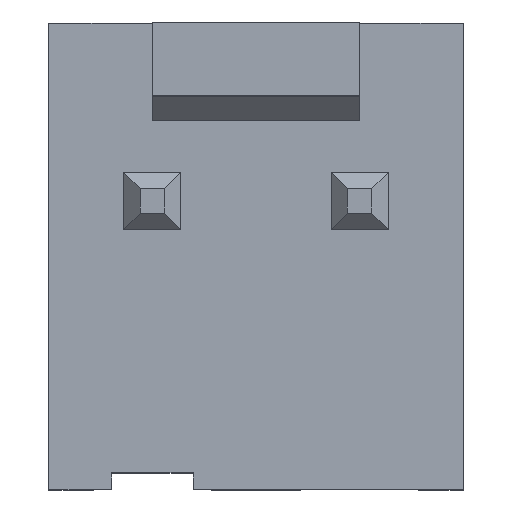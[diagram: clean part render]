
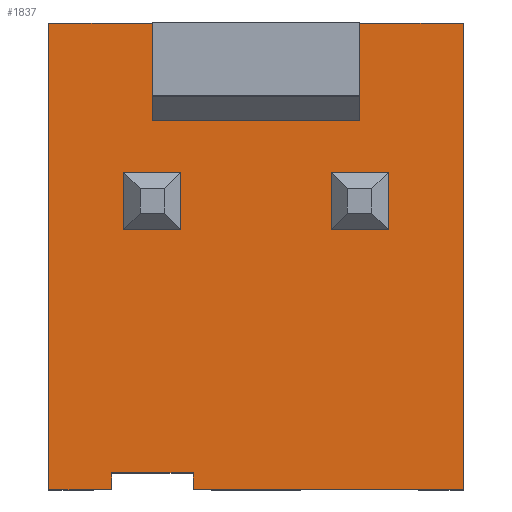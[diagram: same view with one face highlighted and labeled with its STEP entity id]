
A CAD part, top view. The second image highlights one B-rep face of the part: STEP entity #1837.
In plain terms, the highlighted planar face has unit normal (0, 0, 1).
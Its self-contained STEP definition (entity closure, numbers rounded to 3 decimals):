
#812 = VERTEX_POINT('',#813);
#813 = CARTESIAN_POINT('',(1.27,-0.9,3.3));
#819 = EDGE_CURVE('',#812,#820,#822,.T.);
#820 = VERTEX_POINT('',#821);
#821 = CARTESIAN_POINT('',(1.27,0.,3.3));
#822 = LINE('',#823,#824);
#823 = CARTESIAN_POINT('',(1.27,-1.9,3.3));
#824 = VECTOR('',#825,1.);
#825 = DIRECTION('',(0.,1.,0.));
#899 = VERTEX_POINT('',#900);
#900 = CARTESIAN_POINT('',(3.81,-0.9,3.3));
#906 = EDGE_CURVE('',#899,#907,#909,.T.);
#907 = VERTEX_POINT('',#908);
#908 = CARTESIAN_POINT('',(3.81,0.,3.3));
#909 = LINE('',#910,#911);
#910 = CARTESIAN_POINT('',(3.81,-8.,3.3));
#911 = VECTOR('',#912,1.);
#912 = DIRECTION('',(0.,1.,0.));
#955 = VERTEX_POINT('',#956);
#956 = CARTESIAN_POINT('',(0.,0.,3.3));
#1035 = VERTEX_POINT('',#1036);
#1036 = CARTESIAN_POINT('',(5.08,0.,3.3));
#1042 = EDGE_CURVE('',#1035,#907,#1043,.T.);
#1043 = LINE('',#1044,#1045);
#1044 = CARTESIAN_POINT('',(1.905,0.,3.3));
#1045 = VECTOR('',#1046,1.);
#1046 = DIRECTION('',(-1.,0.,0.));
#1051 = EDGE_CURVE('',#820,#955,#1052,.T.);
#1052 = LINE('',#1053,#1054);
#1053 = CARTESIAN_POINT('',(0.635,0.,3.3));
#1054 = VECTOR('',#1055,1.);
#1055 = DIRECTION('',(-1.,0.,0.));
#1073 = EDGE_CURVE('',#812,#899,#1074,.T.);
#1074 = LINE('',#1075,#1076);
#1075 = CARTESIAN_POINT('',(0.,-0.9,3.3));
#1076 = VECTOR('',#1077,1.);
#1077 = DIRECTION('',(1.,0.,0.));
#1134 = EDGE_CURVE('',#955,#1135,#1137,.T.);
#1135 = VERTEX_POINT('',#1136);
#1136 = CARTESIAN_POINT('',(0.,-5.715,3.3));
#1137 = LINE('',#1138,#1139);
#1138 = CARTESIAN_POINT('',(0.,-0.9,3.3));
#1139 = VECTOR('',#1140,1.);
#1140 = DIRECTION('',(0.,-1.,0.));
#1173 = EDGE_CURVE('',#1035,#1174,#1176,.T.);
#1174 = VERTEX_POINT('',#1175);
#1175 = CARTESIAN_POINT('',(5.08,-5.715,3.3));
#1176 = LINE('',#1177,#1178);
#1177 = CARTESIAN_POINT('',(5.08,-5.406,3.3));
#1178 = VECTOR('',#1179,1.);
#1179 = DIRECTION('',(0.,-1.,0.));
#1505 = VERTEX_POINT('',#1506);
#1506 = CARTESIAN_POINT('',(1.77,-5.715,3.3));
#1512 = EDGE_CURVE('',#1505,#1174,#1513,.T.);
#1513 = LINE('',#1514,#1515);
#1514 = CARTESIAN_POINT('',(0.,-5.715,3.3));
#1515 = VECTOR('',#1516,1.);
#1516 = DIRECTION('',(1.,0.,0.));
#1537 = VERTEX_POINT('',#1538);
#1538 = CARTESIAN_POINT('',(1.77,-5.51,3.3));
#1544 = EDGE_CURVE('',#1537,#1505,#1545,.T.);
#1545 = LINE('',#1546,#1547);
#1546 = CARTESIAN_POINT('',(1.77,-3.355,3.3));
#1547 = VECTOR('',#1548,1.);
#1548 = DIRECTION('',(0.,-1.,0.));
#1561 = VERTEX_POINT('',#1562);
#1562 = CARTESIAN_POINT('',(0.77,-5.51,3.3));
#1568 = EDGE_CURVE('',#1561,#1537,#1569,.T.);
#1569 = LINE('',#1570,#1571);
#1570 = CARTESIAN_POINT('',(0.385,-5.51,3.3));
#1571 = VECTOR('',#1572,1.);
#1572 = DIRECTION('',(1.,0.,0.));
#1583 = VERTEX_POINT('',#1584);
#1584 = CARTESIAN_POINT('',(0.77,-5.715,3.3));
#1592 = EDGE_CURVE('',#1561,#1583,#1593,.T.);
#1593 = LINE('',#1594,#1595);
#1594 = CARTESIAN_POINT('',(0.77,-3.355,3.3));
#1595 = VECTOR('',#1596,1.);
#1596 = DIRECTION('',(0.,-1.,0.));
#1607 = EDGE_CURVE('',#1135,#1583,#1608,.T.);
#1608 = LINE('',#1609,#1610);
#1609 = CARTESIAN_POINT('',(0.,-5.715,3.3));
#1610 = VECTOR('',#1611,1.);
#1611 = DIRECTION('',(1.,0.,0.));
#1837 = ADVANCED_FACE('',(#1838),#1852,.T.);
#1838 = FACE_BOUND('',#1839,.T.);
#1839 = EDGE_LOOP('',(#1840,#1841,#1842,#1843,#1844,#1845,#1846,#1847,
    #1848,#1849,#1850,#1851));
#1840 = ORIENTED_EDGE('',*,*,#819,.T.);
#1841 = ORIENTED_EDGE('',*,*,#1051,.T.);
#1842 = ORIENTED_EDGE('',*,*,#1134,.T.);
#1843 = ORIENTED_EDGE('',*,*,#1607,.T.);
#1844 = ORIENTED_EDGE('',*,*,#1592,.F.);
#1845 = ORIENTED_EDGE('',*,*,#1568,.T.);
#1846 = ORIENTED_EDGE('',*,*,#1544,.T.);
#1847 = ORIENTED_EDGE('',*,*,#1512,.T.);
#1848 = ORIENTED_EDGE('',*,*,#1173,.F.);
#1849 = ORIENTED_EDGE('',*,*,#1042,.T.);
#1850 = ORIENTED_EDGE('',*,*,#906,.F.);
#1851 = ORIENTED_EDGE('',*,*,#1073,.F.);
#1852 = PLANE('',#1853);
#1853 = AXIS2_PLACEMENT_3D('',#1854,#1855,#1856);
#1854 = CARTESIAN_POINT('',(2.518,-2.81,3.3));
#1855 = DIRECTION('',(0.,0.,1.));
#1856 = DIRECTION('',(0.,1.,0.));
